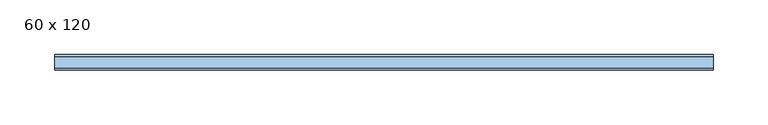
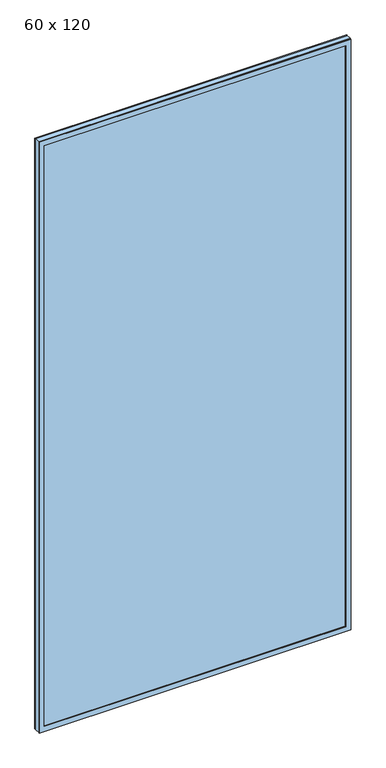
"""IFC4 building model written with IfcOpenShell, lengths in millimetres: window geometry, JANELA DE VIDRO PIVOTANTE - 1 FOLHA : 60 x 120."""

from ifc_helpers import new_model, si_unit, frame, origin, place, context, project, spatial, polyline, outline, extrude, source, transform, mapped, element, save


def window_60_x_120_d88f8660(model_context):
    return source(origin(), model_context, "Body", "SweptSolid", [
        extrude(outline(polyline([(290.0, -63.0), (290.0, -73.0), (-310.0, -73.0), (-310.0, -63.0), (290.0, -63.0)])), frame((0.0, 0.0, 1000.0), z_axis=(0.0, 0.0, 1.0), x_axis=(1.0, 0.0, 0.0)), (0.0, 0.0, 1.0), 1200.0),
        extrude(outline(polyline([(2200.0, -310.0), (1000.0, -310.0), (1000.0, 290.0), (2200.0, 290.0), (2200.0, -310.0)]), holes=[polyline([(2190.0, 280.0), (1010.0, 280.0), (1010.0, -300.0), (2190.0, -300.0), (2190.0, 280.0)])]), frame((0.0, -75.0, 0.0), z_axis=(0.0, 1.0, 0.0), x_axis=(0.0, 0.0, 1.0)), (0.0, 0.0, 1.0), 2.0),
        extrude(outline(polyline([(2200.0, -310.0), (1000.0, -310.0), (1000.0, 290.0), (2200.0, 290.0), (2200.0, -310.0)]), holes=[polyline([(2190.0, 280.0), (1010.0, 280.0), (1010.0, -300.0), (2190.0, -300.0), (2190.0, 280.0)])]), frame((0.0, -63.0, 0.0), z_axis=(0.0, 1.0, 0.0), x_axis=(0.0, 0.0, 1.0)), (0.0, 0.0, 1.0), 2.0),
    ])


if __name__ == "__main__":
    model = new_model("IFC4")
    model_context = context("Model", 3, world=origin())
    ifc_project = project(units=[si_unit("LENGTHUNIT", "METRE", prefix="MILLI")], contexts=[model_context])
    site = spatial("IfcSite", under=ifc_project)
    building = spatial("IfcBuilding", under=site)
    placement = place(None, origin())
    window_60_x_120_shape = window_60_x_120_d88f8660(model_context)
    element("IfcWindow", 1, ObjectType="JANELA DE VIDRO PIVOTANTE - 1 FOLHA : 60 x 120", at=placement, inside=building, context=model_context, shape_type="MappedRepresentation", body=[
        mapped(window_60_x_120_shape, transform((0.0, 0.0, 0.0), x_axis=(1.0, 0.0, 0.0), y_axis=(0.0, 1.0, 0.0), z_axis=(0.0, 0.0, 1.0))),
    ])
    save(model, "model.ifc")
